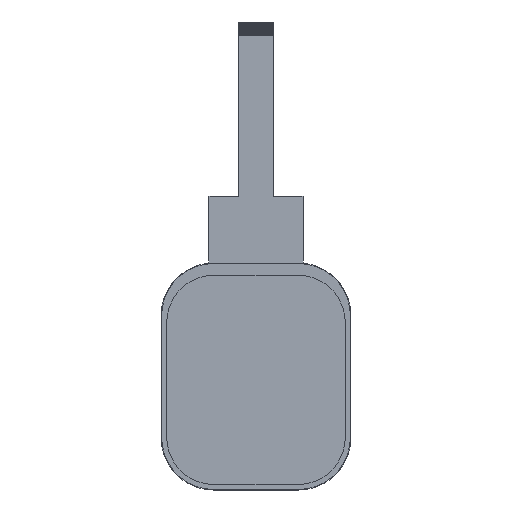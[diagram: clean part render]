
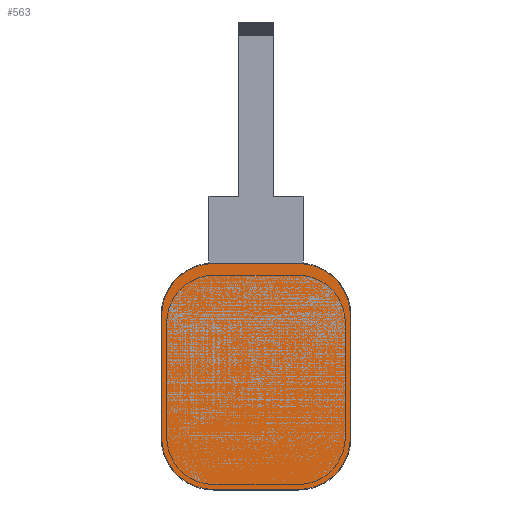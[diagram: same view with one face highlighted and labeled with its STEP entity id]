
A CAD part, top view. The second image highlights one B-rep face of the part: STEP entity #563.
In plain terms, the highlighted planar face has unit normal (0, 0, 1).
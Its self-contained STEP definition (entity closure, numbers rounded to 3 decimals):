
#314 = VERTEX_POINT('',#315);
#315 = CARTESIAN_POINT('',(10.,0.1,1.46));
#331 = VERTEX_POINT('',#332);
#332 = CARTESIAN_POINT('',(0.1,10.,1.46));
#338 = EDGE_CURVE('',#331,#314,#339,.T.);
#339 = CIRCLE('',#340,9.9);
#340 = AXIS2_PLACEMENT_3D('',#341,#342,#343);
#341 = CARTESIAN_POINT('',(10.,10.,1.46));
#342 = DIRECTION('',(0.,0.,1.));
#343 = DIRECTION('',(1.,0.,0.));
#362 = EDGE_CURVE('',#314,#363,#365,.T.);
#363 = VERTEX_POINT('',#364);
#364 = CARTESIAN_POINT('',(26.33,0.1,1.46));
#365 = LINE('',#366,#367);
#366 = CARTESIAN_POINT('',(10.,0.1,1.46));
#367 = VECTOR('',#368,1.);
#368 = DIRECTION('',(1.,0.,0.));
#394 = VERTEX_POINT('',#395);
#395 = CARTESIAN_POINT('',(0.1,33.45,1.46));
#401 = EDGE_CURVE('',#331,#394,#402,.T.);
#402 = LINE('',#403,#404);
#403 = CARTESIAN_POINT('',(0.1,10.,1.46));
#404 = VECTOR('',#405,1.);
#405 = DIRECTION('',(0.,1.,0.));
#418 = VERTEX_POINT('',#419);
#419 = CARTESIAN_POINT('',(36.23,10.,1.46));
#433 = EDGE_CURVE('',#363,#418,#434,.T.);
#434 = CIRCLE('',#435,9.9);
#435 = AXIS2_PLACEMENT_3D('',#436,#437,#438);
#436 = CARTESIAN_POINT('',(26.33,10.,1.46));
#437 = DIRECTION('',(0.,0.,1.));
#438 = DIRECTION('',(1.,0.,0.));
#458 = VERTEX_POINT('',#459);
#459 = CARTESIAN_POINT('',(10.,43.35,1.46));
#465 = EDGE_CURVE('',#458,#394,#466,.T.);
#466 = CIRCLE('',#467,9.9);
#467 = AXIS2_PLACEMENT_3D('',#468,#469,#470);
#468 = CARTESIAN_POINT('',(10.,33.45,1.46));
#469 = DIRECTION('',(0.,0.,1.));
#470 = DIRECTION('',(1.,0.,0.));
#491 = VERTEX_POINT('',#492);
#492 = CARTESIAN_POINT('',(36.23,33.45,1.46));
#498 = EDGE_CURVE('',#418,#491,#499,.T.);
#499 = LINE('',#500,#501);
#500 = CARTESIAN_POINT('',(36.23,10.,1.46));
#501 = VECTOR('',#502,1.);
#502 = DIRECTION('',(0.,1.,0.));
#521 = EDGE_CURVE('',#458,#522,#524,.T.);
#522 = VERTEX_POINT('',#523);
#523 = CARTESIAN_POINT('',(26.33,43.35,1.46));
#524 = LINE('',#525,#526);
#525 = CARTESIAN_POINT('',(10.,43.35,1.46));
#526 = VECTOR('',#527,1.);
#527 = DIRECTION('',(1.,0.,0.));
#551 = EDGE_CURVE('',#491,#522,#552,.T.);
#552 = CIRCLE('',#553,9.9);
#553 = AXIS2_PLACEMENT_3D('',#554,#555,#556);
#554 = CARTESIAN_POINT('',(26.33,33.45,1.46));
#555 = DIRECTION('',(0.,0.,1.));
#556 = DIRECTION('',(1.,0.,0.));
#563 = ADVANCED_FACE('',(#564),#574,.T.);
#564 = FACE_BOUND('',#565,.T.);
#565 = EDGE_LOOP('',(#566,#567,#568,#569,#570,#571,#572,#573));
#566 = ORIENTED_EDGE('',*,*,#338,.T.);
#567 = ORIENTED_EDGE('',*,*,#362,.T.);
#568 = ORIENTED_EDGE('',*,*,#433,.T.);
#569 = ORIENTED_EDGE('',*,*,#498,.T.);
#570 = ORIENTED_EDGE('',*,*,#551,.T.);
#571 = ORIENTED_EDGE('',*,*,#521,.F.);
#572 = ORIENTED_EDGE('',*,*,#465,.T.);
#573 = ORIENTED_EDGE('',*,*,#401,.F.);
#574 = PLANE('',#575);
#575 = AXIS2_PLACEMENT_3D('',#576,#577,#578);
#576 = CARTESIAN_POINT('',(18.165,21.725,1.46));
#577 = DIRECTION('',(0.,0.,1.));
#578 = DIRECTION('',(1.,0.,0.));
